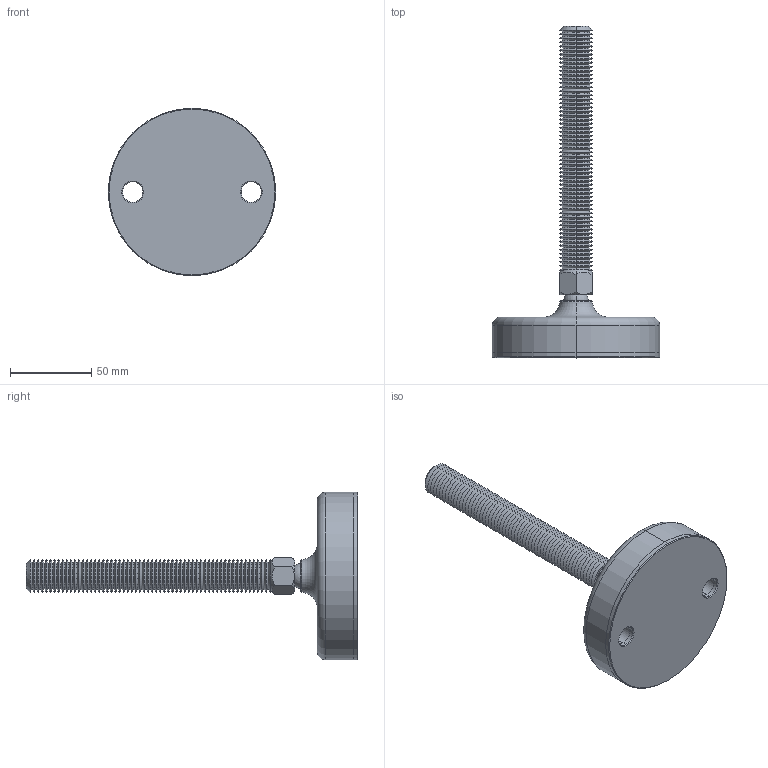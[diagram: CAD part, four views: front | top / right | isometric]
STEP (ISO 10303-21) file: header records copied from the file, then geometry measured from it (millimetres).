
FILE_DESCRIPTION (( 'STEP AP203' ), '1' );
FILE_NAME ('34724.W2010.step', '2019-11-28T22:18:17', ( '' ), ( '' ), 'SwSTEP 2.0', 'SolidWorks 2017', '' );
FILE_SCHEMA (( 'CONFIG_CONTROL_DESIGN' ));
Length unit declared in the file: millimetre
Products named in the file (4): Part1_34724.W2010; Part3_34724.W2010; 34724.W2010; Part2_34724.W2010
Assembly tree (3 placements, depth 2):
  34724.W2010
    Part1_34724.W2010
    Part2_34724.W2010
    Part3_34724.W2010
Bounding box: 103 x 204 x 103 mm (x, y, z)
Volume: 248583.1 mm3; surface area: 60887.5 mm2
Topology: 3 solids, 3 shells, 288 faces, 591 edges, 309 vertices
Faces by surface type: cone 254, plane 14, cylinder 12, sphere 4, torus 4
Entity records: 7866 total; most frequent: DIRECTION 1456, CARTESIAN_POINT 1332, ORIENTED_EDGE 1164, AXIS2_PLACEMENT_3D 592, EDGE_CURVE 582, VERTEX_POINT 304, EDGE_LOOP 300, CIRCLE 298
